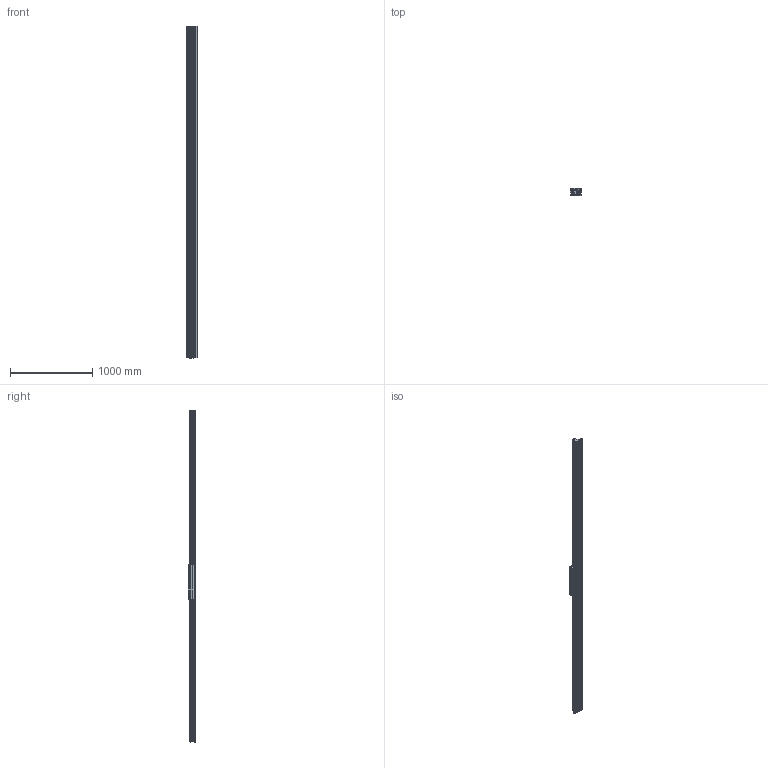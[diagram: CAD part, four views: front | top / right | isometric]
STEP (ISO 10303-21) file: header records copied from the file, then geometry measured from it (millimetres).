
FILE_DESCRIPTION (( 'STEP AP214' ), '1' );
FILE_NAME ('SINADRIVES Linear Motor Stage MLL20630XS-XX-1-0-ST-00-04020.STEP', '2015-07-07T08:19:39', ( 'Tecnico' ), ( '' ), 'SwSTEP 2.0', 'SolidWorks 2009', '' );
FILE_SCHEMA (( 'AUTOMOTIVE_DESIGN' ));
Length unit declared in the file: millimetre
Products named in the file (7): SINADRIVES CARRIAGE MLL20630XS-1; CARRIAGE MLL20630; Connector power+signal Y-tec 45; SINADRIVES PROFILE MLL2XXXX-4004; SINADRIVES ENDBLOCK MLL2; SINADRIVES ENDBLOCK MLL2-2; SINADRIVES Linear Motor Stage MLL20630XS-XX-1-0-ST-00-04020
Assembly tree (6 placements, depth 3):
  SINADRIVES Linear Motor Stage MLL20630XS-XX-1-0-ST-00-04020
    SINADRIVES PROFILE MLL2XXXX-4004
    SINADRIVES ENDBLOCK MLL2-2
    SINADRIVES CARRIAGE MLL20630XS-1
      Connector power+signal Y-tec 45
      CARRIAGE MLL20630
    SINADRIVES ENDBLOCK MLL2
Bounding box: 144.43 x 91 x 4028.8 mm (x, y, z)
Volume: 18375803.2 mm3; surface area: 3133281 mm2
Topology: 2 solids, 42 shells, 950 faces, 2640 edges, 1730 vertices
Faces by surface type: plane 445, cylinder 302, bspline 79, cone 70, torus 42, sphere 12
Entity records: 40587 total; most frequent: CARTESIAN_POINT 8656, ORIENTED_EDGE 5024, DIRECTION 4947, EDGE_CURVE 2622, AXIS2_PLACEMENT_3D 1781, VERTEX_POINT 1730, LINE 1385, VECTOR 1385
